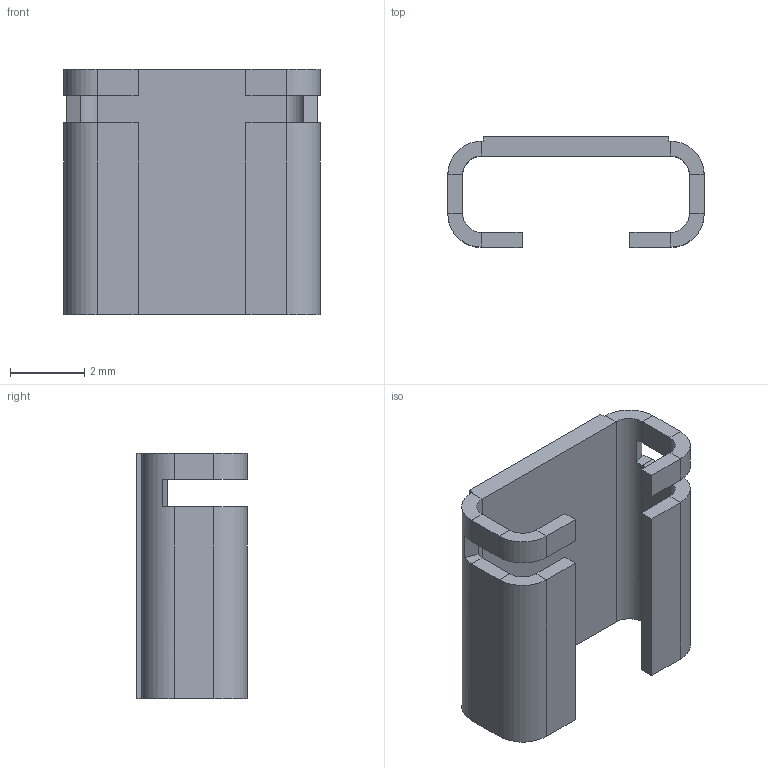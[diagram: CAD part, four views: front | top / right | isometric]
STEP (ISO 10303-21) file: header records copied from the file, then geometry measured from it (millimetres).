
FILE_DESCRIPTION (( 'STEP AP203' ), '1' );
FILE_NAME ('RSHJ2726-2.0m次-F曾磁踢.STEP', '2023-07-17T03:04:32', ( '' ), ( '' ), 'SwSTEP 2.0', 'SolidWorks 2020', '' );
FILE_SCHEMA (( 'CONFIG_CONTROL_DESIGN' ));
Length unit declared in the file: millimetre
Products named in the file (1): RSHJ2726-2.0m次-F曾磁踢
Bounding box: 6.9 x 2.98 x 6.6 mm (x, y, z)
Volume: 38.6 mm3; surface area: 196.7 mm2
Topology: 1 solids, 1 shells, 74 faces, 160 edges, 88 vertices
Faces by surface type: plane 62, cylinder 12
Entity records: 2005 total; most frequent: DIRECTION 342, CARTESIAN_POINT 323, ORIENTED_EDGE 320, EDGE_CURVE 160, VECTOR 128, LINE 128, AXIS2_PLACEMENT_3D 107, VERTEX_POINT 88
